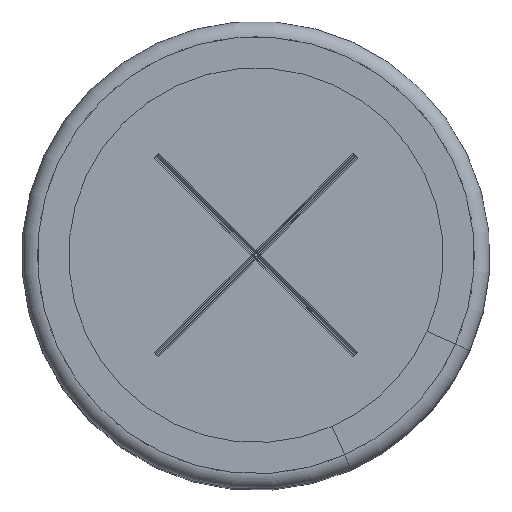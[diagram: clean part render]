
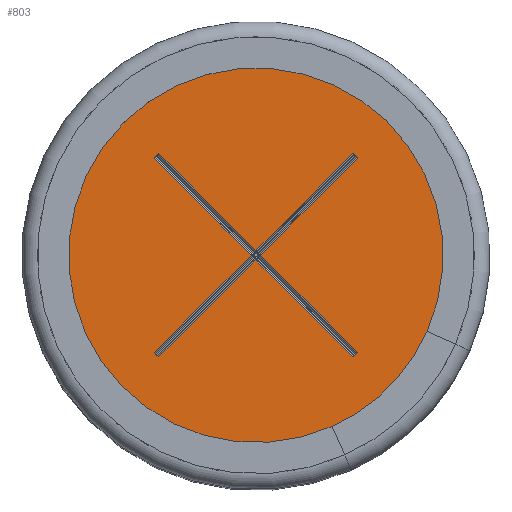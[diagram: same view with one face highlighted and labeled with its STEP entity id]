
A CAD part, top view. The second image highlights one B-rep face of the part: STEP entity #803.
In plain terms, the highlighted planar face has unit normal (0, 0, 1).
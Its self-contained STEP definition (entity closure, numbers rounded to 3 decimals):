
#176=FACE_BOUND('',#1284,.T.);
#177=FACE_BOUND('',#1285,.T.);
#687=PLANE('',#4047);
#803=ADVANCED_FACE('',(#176,#177),#687,.T.);
#1284=EDGE_LOOP('',(#2130));
#1285=EDGE_LOOP('',(#2131,#2132,#2133,#2134,#2135,#2136,#2137,#2138,#2139,
#2140,#2141,#2142));
#1517=LINE('',#5710,#1771);
#1518=LINE('',#5713,#1772);
#1519=LINE('',#5715,#1773);
#1520=LINE('',#5717,#1774);
#1521=LINE('',#5719,#1775);
#1522=LINE('',#5721,#1776);
#1523=LINE('',#5723,#1777);
#1524=LINE('',#5725,#1778);
#1525=LINE('',#5727,#1779);
#1526=LINE('',#5729,#1780);
#1527=LINE('',#5731,#1781);
#1528=LINE('',#5733,#1782);
#1771=VECTOR('',#4590,1.);
#1772=VECTOR('',#4591,1.);
#1773=VECTOR('',#4592,1.);
#1774=VECTOR('',#4593,1.);
#1775=VECTOR('',#4594,1.);
#1776=VECTOR('',#4595,1.);
#1777=VECTOR('',#4596,1.);
#1778=VECTOR('',#4597,1.);
#1779=VECTOR('',#4598,1.);
#1780=VECTOR('',#4599,1.);
#1781=VECTOR('',#4600,1.);
#1782=VECTOR('',#4601,1.);
#2130=ORIENTED_EDGE('',*,*,#3368,.F.);
#2131=ORIENTED_EDGE('',*,*,#3369,.T.);
#2132=ORIENTED_EDGE('',*,*,#3370,.T.);
#2133=ORIENTED_EDGE('',*,*,#3371,.T.);
#2134=ORIENTED_EDGE('',*,*,#3372,.F.);
#2135=ORIENTED_EDGE('',*,*,#3373,.T.);
#2136=ORIENTED_EDGE('',*,*,#3374,.T.);
#2137=ORIENTED_EDGE('',*,*,#3375,.F.);
#2138=ORIENTED_EDGE('',*,*,#3376,.T.);
#2139=ORIENTED_EDGE('',*,*,#3377,.T.);
#2140=ORIENTED_EDGE('',*,*,#3378,.T.);
#2141=ORIENTED_EDGE('',*,*,#3379,.T.);
#2142=ORIENTED_EDGE('',*,*,#3380,.T.);
#3038=VERTEX_POINT('',#5709);
#3039=VERTEX_POINT('',#5711);
#3040=VERTEX_POINT('',#5712);
#3041=VERTEX_POINT('',#5714);
#3042=VERTEX_POINT('',#5716);
#3043=VERTEX_POINT('',#5718);
#3044=VERTEX_POINT('',#5720);
#3045=VERTEX_POINT('',#5722);
#3046=VERTEX_POINT('',#5724);
#3047=VERTEX_POINT('',#5726);
#3048=VERTEX_POINT('',#5728);
#3049=VERTEX_POINT('',#5730);
#3050=VERTEX_POINT('',#5732);
#3368=EDGE_CURVE('',#3038,#3038,#3826,.T.);
#3369=EDGE_CURVE('',#3039,#3040,#1517,.T.);
#3370=EDGE_CURVE('',#3040,#3041,#1518,.T.);
#3371=EDGE_CURVE('',#3041,#3042,#1519,.T.);
#3372=EDGE_CURVE('',#3043,#3042,#1520,.T.);
#3373=EDGE_CURVE('',#3043,#3044,#1521,.T.);
#3374=EDGE_CURVE('',#3044,#3045,#1522,.T.);
#3375=EDGE_CURVE('',#3046,#3045,#1523,.T.);
#3376=EDGE_CURVE('',#3046,#3047,#1524,.T.);
#3377=EDGE_CURVE('',#3047,#3048,#1525,.T.);
#3378=EDGE_CURVE('',#3048,#3049,#1526,.T.);
#3379=EDGE_CURVE('',#3049,#3050,#1527,.T.);
#3380=EDGE_CURVE('',#3050,#3039,#1528,.T.);
#3826=CIRCLE('',#4046,14.);
#4046=AXIS2_PLACEMENT_3D('',#5708,#4588,#4589);
#4047=AXIS2_PLACEMENT_3D('',#5734,#4602,#4603);
#4588=DIRECTION('',(0.,0.,-1.));
#4589=DIRECTION('',(-1.,0.,0.));
#4590=DIRECTION('',(0.707,-0.707,0.));
#4591=DIRECTION('',(-0.707,-0.707,0.));
#4592=DIRECTION('',(0.707,-0.707,0.));
#4593=DIRECTION('',(0.707,0.707,0.));
#4594=DIRECTION('',(-0.707,0.707,0.));
#4595=DIRECTION('',(-0.707,-0.707,0.));
#4596=DIRECTION('',(0.707,-0.707,0.));
#4597=DIRECTION('',(0.707,0.707,0.));
#4598=DIRECTION('',(-0.707,0.707,0.));
#4599=DIRECTION('',(0.707,0.707,0.));
#4600=DIRECTION('',(0.707,-0.707,0.));
#4601=DIRECTION('',(0.707,0.707,0.));
#4602=DIRECTION('',(0.,0.,1.));
#4603=DIRECTION('',(1.,0.,0.));
#5708=CARTESIAN_POINT('',(0.,0.,44.8));
#5709=CARTESIAN_POINT('',(-14.,0.,44.8));
#5710=CARTESIAN_POINT('',(6.258,6.47,44.8));
#5711=CARTESIAN_POINT('',(6.214,6.514,44.8));
#5712=CARTESIAN_POINT('',(6.514,6.214,44.8));
#5713=CARTESIAN_POINT('',(-6.85,-7.15,44.8));
#5714=CARTESIAN_POINT('',(0.3,0.,44.8));
#5715=CARTESIAN_POINT('',(-6.85,7.15,44.8));
#5716=CARTESIAN_POINT('',(6.514,-6.214,44.8));
#5717=CARTESIAN_POINT('',(6.47,-6.258,44.8));
#5718=CARTESIAN_POINT('',(6.214,-6.514,44.8));
#5719=CARTESIAN_POINT('',(-7.15,6.85,44.8));
#5720=CARTESIAN_POINT('',(0.,-0.3,44.8));
#5721=CARTESIAN_POINT('',(-6.85,-7.15,44.8));
#5722=CARTESIAN_POINT('',(-6.214,-6.514,44.8));
#5723=CARTESIAN_POINT('',(-6.47,-6.258,44.8));
#5724=CARTESIAN_POINT('',(-6.514,-6.214,44.8));
#5725=CARTESIAN_POINT('',(-7.15,-6.85,44.8));
#5726=CARTESIAN_POINT('',(-0.3,0.,44.8));
#5727=CARTESIAN_POINT('',(-7.15,6.85,44.8));
#5728=CARTESIAN_POINT('',(-6.514,6.214,44.8));
#5729=CARTESIAN_POINT('',(-6.258,6.47,44.8));
#5730=CARTESIAN_POINT('',(-6.214,6.514,44.8));
#5731=CARTESIAN_POINT('',(-6.85,7.15,44.8));
#5732=CARTESIAN_POINT('',(0.,0.3,44.8));
#5733=CARTESIAN_POINT('',(-7.15,-6.85,44.8));
#5734=CARTESIAN_POINT('',(-14.,0.,44.8));
